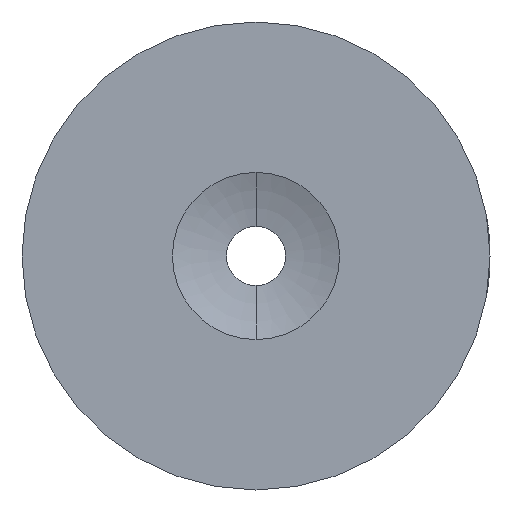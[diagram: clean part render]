
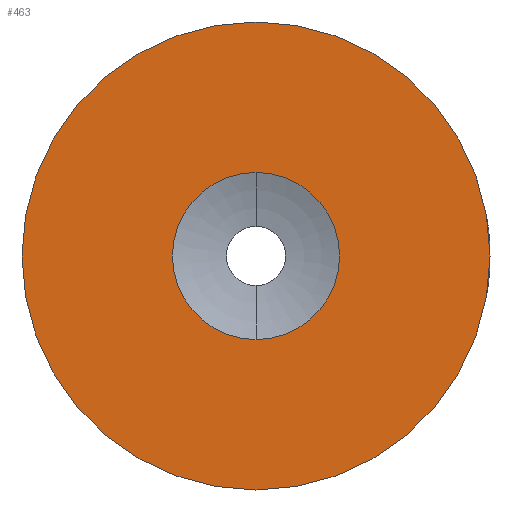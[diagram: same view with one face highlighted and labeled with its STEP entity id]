
A CAD part, left-side view. The second image highlights one B-rep face of the part: STEP entity #463.
In plain terms, the highlighted planar face has unit normal (-1, 0, 0).
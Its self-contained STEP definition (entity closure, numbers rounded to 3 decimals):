
#13 = AXIS2_PLACEMENT_3D ( 'NONE', #328, #100, #115 ) ;
#14 = ORIENTED_EDGE ( 'NONE', *, *, #57, .F. ) ;
#52 = ORIENTED_EDGE ( 'NONE', *, *, #282, .F. ) ;
#57 = EDGE_CURVE ( 'NONE', #246, #173, #381, .T. ) ;
#69 = DIRECTION ( 'NONE',  ( 0., 0., 1. ) ) ;
#85 = CIRCLE ( 'NONE', #13, 5. ) ;
#88 = FACE_BOUND ( 'NONE', #494, .T. ) ;
#100 = DIRECTION ( 'NONE',  ( -1., 0., 0. ) ) ;
#101 = CIRCLE ( 'NONE', #448, 14. ) ;
#115 = DIRECTION ( 'NONE',  ( 0., 0., 1. ) ) ;
#123 = AXIS2_PLACEMENT_3D ( 'NONE', #236, #445, #357 ) ;
#137 = CARTESIAN_POINT ( 'NONE',  ( 0., 0., 0. ) ) ;
#139 = EDGE_CURVE ( 'NONE', #362, #471, #406, .T. ) ;
#145 = CARTESIAN_POINT ( 'NONE',  ( 0., 0., 14. ) ) ;
#173 = VERTEX_POINT ( 'NONE', #443 ) ;
#178 = ORIENTED_EDGE ( 'NONE', *, *, #139, .T. ) ;
#193 = ORIENTED_EDGE ( 'NONE', *, *, #439, .T. ) ;
#202 = DIRECTION ( 'NONE',  ( -1., 0., 0. ) ) ;
#234 = CARTESIAN_POINT ( 'NONE',  ( 0., 0., 0. ) ) ;
#236 = CARTESIAN_POINT ( 'NONE',  ( 0., 1.75, 0. ) ) ;
#246 = VERTEX_POINT ( 'NONE', #486 ) ;
#269 = AXIS2_PLACEMENT_3D ( 'NONE', #137, #202, #498 ) ;
#282 = EDGE_CURVE ( 'NONE', #173, #246, #85, .T. ) ;
#328 = CARTESIAN_POINT ( 'NONE',  ( 0., 0., 0. ) ) ;
#330 = FACE_OUTER_BOUND ( 'NONE', #387, .T. ) ;
#339 = CARTESIAN_POINT ( 'NONE',  ( 0., 0., 0. ) ) ;
#357 = DIRECTION ( 'NONE',  ( 0., 0., -1. ) ) ;
#358 = DIRECTION ( 'NONE',  ( 0., 0., 1. ) ) ;
#362 = VERTEX_POINT ( 'NONE', #378 ) ;
#372 = DIRECTION ( 'NONE',  ( -1., 0., 0. ) ) ;
#378 = CARTESIAN_POINT ( 'NONE',  ( 0., 0., -14. ) ) ;
#381 = CIRCLE ( 'NONE', #529, 5. ) ;
#387 = EDGE_LOOP ( 'NONE', ( #193, #178 ) ) ;
#395 = PLANE ( 'NONE',  #123 ) ;
#398 = DIRECTION ( 'NONE',  ( -1., 0., 0. ) ) ;
#406 = CIRCLE ( 'NONE', #269, 14. ) ;
#439 = EDGE_CURVE ( 'NONE', #471, #362, #101, .T. ) ;
#443 = CARTESIAN_POINT ( 'NONE',  ( 0., 0., -5. ) ) ;
#445 = DIRECTION ( 'NONE',  ( 1., 0., 0. ) ) ;
#448 = AXIS2_PLACEMENT_3D ( 'NONE', #234, #398, #358 ) ;
#463 = ADVANCED_FACE ( 'NONE', ( #88, #330 ), #395, .F. ) ;
#471 = VERTEX_POINT ( 'NONE', #145 ) ;
#486 = CARTESIAN_POINT ( 'NONE',  ( 0., 0., 5. ) ) ;
#494 = EDGE_LOOP ( 'NONE', ( #14, #52 ) ) ;
#498 = DIRECTION ( 'NONE',  ( 0., 0., 1. ) ) ;
#529 = AXIS2_PLACEMENT_3D ( 'NONE', #339, #372, #69 ) ;
